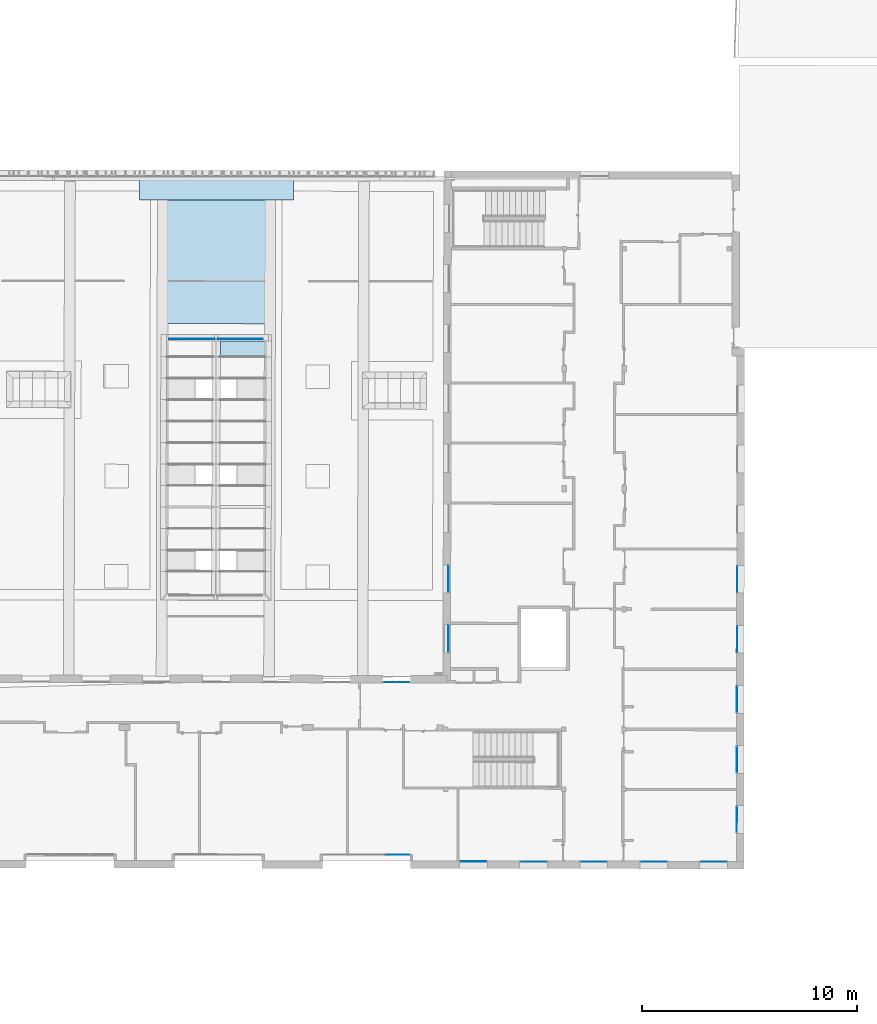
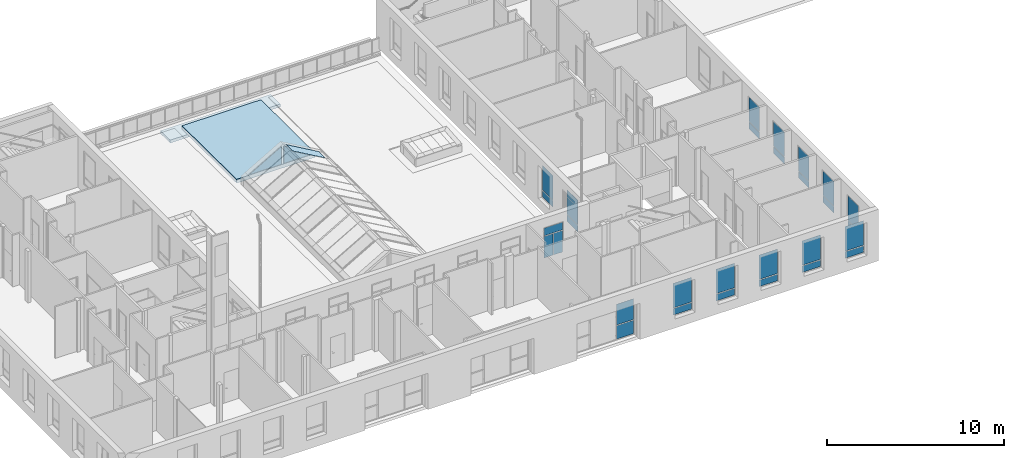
# One storey, part 37 of 101: 32 plates, 2 slabs, 17 elements without a shape of their own.
"""IFC2X3 building model written with IfcOpenShell, lengths in metres."""

from ifc_helpers import new_model, entity, si_unit, converted_unit, derived_unit, direction, frame, frame_2d, origin, place, context, subcontext, project, spatial, polyline, rectangle, outline, extrude, clip, halfspace, source, transform, mapped, material, layer, layer_set, layer_usage, type_object, type_shapes, element, aggregate, save


model = new_model("IFC2X3")

# Units and contexts
model_context = context("Model", 3, precision=1e-05, world=origin(), true_north=direction((6.123233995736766e-17, 1.0)))
body_context = subcontext(model_context, "Body", "Model", "MODEL_VIEW")
ifc_project = project(units=[si_unit("LENGTHUNIT", "METRE"), si_unit("AREAUNIT", "SQUARE_METRE"), converted_unit("PLANEANGLEUNIT", "DEGREE", entity("IfcPlaneAngleMeasure", 0.017453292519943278), si_unit("PLANEANGLEUNIT", "RADIAN"), dimensions=[0, 0, 0, 0, 0, 0, 0]), derived_unit("THERMALTRANSMITTANCEUNIT", [(si_unit("MASSUNIT", "GRAM", prefix="KILO"), 1), (si_unit("THERMODYNAMICTEMPERATUREUNIT", "KELVIN"), -1), (si_unit("TIMEUNIT", "SECOND"), -3)])], contexts=[model_context])

# Site, building, storey
site_placement = place(None, frame((1253.6752467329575, 2072.143113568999, 91.49999999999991), z_axis=(0.0, 0.0, 1.0), x_axis=(0.7237211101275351, 0.6900925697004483, 0.0)))
site = spatial("IfcSite", under=ifc_project, at=site_placement, Name="Surface", CompositionType="ELEMENT")
building_placement = place(site_placement, origin())
building = spatial("IfcBuilding", under=site, at=building_placement, CompositionType="ELEMENT")
storey_placement = place(building_placement, origin())
storey = spatial("IfcBuildingStorey", under=building, at=storey_placement, Name="0- Rdc", CompositionType="ELEMENT", Elevation=-5.764692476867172e-13)

# Slab
ifc_material_1 = material(Name="OMD_Béton blanc")
ifc_layer_1 = layer(ifc_material_1, 0.2)
ifc_layer_set_1 = layer_set([ifc_layer_1], Name="Sol:Dalle 20")
ifc_layer_usage = layer_usage(ifc_layer_set_1, "AXIS3", "POSITIVE", 0.0)
slab_type = type_object("IfcSlabType", Name="Sol:Dalle 20", PredefinedType="FLOOR", material=ifc_layer_set_1)
slab_1_placement = place(storey_placement, origin())
element("IfcSlab", 1, at=slab_1_placement, inside=storey, type_object=slab_type, material=ifc_layer_usage, Name="Sol:Dalle 20", ObjectType="Sol:Dalle 20", PredefinedType="FLOOR", context=body_context, shape_type="SweptSolid", body=[
    clip(clip(extrude(outline(polyline([(-3.5813538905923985, -0.5487258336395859), (3.5804022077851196, -0.5487258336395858), (3.5828156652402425, 0.5509983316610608), (-3.581863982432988, 0.5464533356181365), (-3.5813538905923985, -0.5487258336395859)])), frame((183.40344794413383, 10.195245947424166, -0.7484157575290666), z_axis=(-0.006155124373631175, -0.006429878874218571, -0.9999603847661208), x_axis=(0.7223721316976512, -0.6915045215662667, 0.0)), (0.0, -0.008901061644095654, 0.9999603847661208), 0.20001584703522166), halfspace(frame((183.85668799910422, 10.520959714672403, -0.9533079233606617), z_axis=(-0.00615512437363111, -0.006429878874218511, -0.9999603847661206), x_axis=(-0.6914771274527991, -0.722343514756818, 0.008901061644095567)), False)), halfspace(frame((183.85668799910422, 10.520959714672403, -0.7533), z_axis=(0.00615512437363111, 0.006429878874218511, 0.9999603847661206), x_axis=(0.6914771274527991, 0.722343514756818, -0.008901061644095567)), False)),
])

# Curtain wall, plate
curtain_wall_type_1 = type_object("IfcCurtainWallType", Name="Mur-rideau:Menuiserie Ext 1F+1OB VERTIC", PredefinedType="NOTDEFINED")
curtain_wall_1_placement = place(storey_placement, origin())
curtain_wall_1 = element("IfcCurtainWall", 2, at=curtain_wall_1_placement, inside=storey, type_object=curtain_wall_type_1, Name="Mur-rideau:Menuiserie Ext 1F+1OB VERTIC", ObjectType="Mur-rideau:Menuiserie Ext 1F+1OB VERTIC")
ifc_material_2 = material(Name="Verre")
ifc_layer_2 = layer(ifc_material_2, 0.01)
ifc_layer_set_2 = layer_set([ifc_layer_2], Name="Panneau système:Vitré")
plate_type_1 = type_object("IfcPlateType", Name="Panneau système:Vitré", PredefinedType="CURTAIN_PANEL", material=ifc_layer_set_2)
shared_shape_1 = source(origin(), body_context, "Body", "SweptSolid", [
    extrude(rectangle(XDim=0.01, YDim=1.199695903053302, at=frame_2d((0.0, -4.163336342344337e-15), x_axis=(1.0, 0.0))), frame((0.0, 0.0, 0.0), z_axis=(0.0, 0.0, 1.0), x_axis=(0.0, 1.0, 0.0)), (0.0, 0.0, 1.0), 0.44499999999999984),
])
type_shapes(plate_type_1, [shared_shape_1])
plate_1_placement = place(curtain_wall_1_placement, frame((178.66827929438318, -10.447687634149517, 0.6699999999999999), z_axis=(0.0, 0.0, 1.0), x_axis=(0.6913353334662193, 0.7225340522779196, 0.0)))
plate_1 = element("IfcPlate", 3, at=plate_1_placement, type_object=plate_type_1, material=ifc_material_2, Name="Panneau système:Vitré", ObjectType="Panneau système:Vitré", context=body_context, shape_type="MappedRepresentation", body=[
    mapped(shared_shape_1, transform((0.0, 0.0, 0.0), scale=1.0)),
])

curtain_wall_2_placement = place(storey_placement, origin())
curtain_wall_2 = element("IfcCurtainWall", 4, at=curtain_wall_2_placement, inside=storey, type_object=curtain_wall_type_1, Name="Mur-rideau:Menuiserie Ext 1F+1OB VERTIC", ObjectType="Mur-rideau:Menuiserie Ext 1F+1OB VERTIC")
plate_2_placement = place(curtain_wall_2_placement, frame((188.39294650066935, -19.74346588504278, 0.6699999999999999), z_axis=(0.0, 0.0, 1.0), x_axis=(0.6909838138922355, 0.7228702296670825, 0.0)))
plate_2 = element("IfcPlate", 5, at=plate_2_placement, type_object=plate_type_1, material=ifc_material_2, Name="Panneau système:Vitré", ObjectType="Panneau système:Vitré", context=body_context, shape_type="MappedRepresentation", body=[
    mapped(shared_shape_1, transform((0.0, 0.0, 0.0), scale=1.0)),
])

curtain_wall_3_placement = place(storey_placement, origin())
curtain_wall_3 = element("IfcCurtainWall", 6, at=curtain_wall_3_placement, inside=storey, type_object=curtain_wall_type_1, Name="Mur-rideau:Menuiserie Ext 1F+1OB VERTIC", ObjectType="Mur-rideau:Menuiserie Ext 1F+1OB VERTIC")
plate_3_placement = place(curtain_wall_3_placement, frame((186.45819182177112, -21.767502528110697, 0.6699999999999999), z_axis=(0.0, 0.0, 1.0), x_axis=(0.6909838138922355, 0.7228702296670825, 0.0)))
plate_3 = element("IfcPlate", 7, at=plate_3_placement, type_object=plate_type_1, material=ifc_material_2, Name="Panneau système:Vitré", ObjectType="Panneau système:Vitré", context=body_context, shape_type="MappedRepresentation", body=[
    mapped(shared_shape_1, transform((0.0, 0.0, 0.0), scale=1.0)),
])

curtain_wall_4_placement = place(storey_placement, origin())
curtain_wall_4 = element("IfcCurtainWall", 8, at=curtain_wall_4_placement, inside=storey, type_object=curtain_wall_type_1, Name="Mur-rideau:Menuiserie Ext 1F+1OB VERTIC", ObjectType="Mur-rideau:Menuiserie Ext 1F+1OB VERTIC")
plate_4_placement = place(curtain_wall_4_placement, frame((184.52343714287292, -23.79153917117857, 0.6699999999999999), z_axis=(0.0, 0.0, 1.0), x_axis=(0.6909838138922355, 0.7228702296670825, 0.0)))
plate_4 = element("IfcPlate", 9, at=plate_4_placement, type_object=plate_type_1, material=ifc_material_2, Name="Panneau système:Vitré", ObjectType="Panneau système:Vitré", context=body_context, shape_type="MappedRepresentation", body=[
    mapped(shared_shape_1, transform((0.0, 0.0, 0.0), scale=1.0)),
])

curtain_wall_5_placement = place(storey_placement, origin())
curtain_wall_5 = element("IfcCurtainWall", 10, at=curtain_wall_5_placement, inside=storey, type_object=curtain_wall_type_1, Name="Mur-rideau:Menuiserie Ext 1F+1OB VERTIC", ObjectType="Mur-rideau:Menuiserie Ext 1F+1OB VERTIC")
plate_5_placement = place(curtain_wall_5_placement, frame((182.5886824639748, -25.815575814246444, 0.6699999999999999), z_axis=(0.0, 0.0, 1.0), x_axis=(0.6909838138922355, 0.7228702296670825, 0.0)))
plate_5 = element("IfcPlate", 11, at=plate_5_placement, type_object=plate_type_1, material=ifc_material_2, Name="Panneau système:Vitré", ObjectType="Panneau système:Vitré", context=body_context, shape_type="MappedRepresentation", body=[
    mapped(shared_shape_1, transform((0.0, 0.0, 0.0), scale=1.0)),
])

curtain_wall_6_placement = place(storey_placement, origin())
curtain_wall_6 = element("IfcCurtainWall", 12, at=curtain_wall_6_placement, inside=storey, type_object=curtain_wall_type_1, Name="Mur-rideau:Menuiserie Ext 1F+1OB VERTIC", ObjectType="Mur-rideau:Menuiserie Ext 1F+1OB VERTIC")
plate_6_placement = place(curtain_wall_6_placement, frame((180.6539277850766, -27.839612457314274, 0.6699999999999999), z_axis=(0.0, 0.0, 1.0), x_axis=(0.6909838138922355, 0.7228702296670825, 0.0)))
plate_6 = element("IfcPlate", 13, at=plate_6_placement, type_object=plate_type_1, material=ifc_material_2, Name="Panneau système:Vitré", ObjectType="Panneau système:Vitré", context=body_context, shape_type="MappedRepresentation", body=[
    mapped(shared_shape_1, transform((0.0, 0.0, 0.0), scale=1.0)),
])

curtain_wall_7_placement = place(storey_placement, origin())
curtain_wall_7 = element("IfcCurtainWall", 14, at=curtain_wall_7_placement, inside=storey, type_object=curtain_wall_type_1, Name="Mur-rideau:Menuiserie Ext 1F+1OB VERTIC", ObjectType="Mur-rideau:Menuiserie Ext 1F+1OB VERTIC")
plate_7_placement = place(curtain_wall_7_placement, frame((178.50916414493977, -28.521830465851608, 0.6699999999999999), z_axis=(0.0, 0.0, 1.0), x_axis=(-0.7228702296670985, 0.6909838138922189, 0.0)))
plate_7 = element("IfcPlate", 15, at=plate_7_placement, type_object=plate_type_1, material=ifc_material_2, Name="Panneau système:Vitré", ObjectType="Panneau système:Vitré", context=body_context, shape_type="MappedRepresentation", body=[
    mapped(shared_shape_1, transform((0.0, 0.0, 0.0), scale=1.0)),
])

curtain_wall_8_placement = place(storey_placement, origin())
curtain_wall_8 = element("IfcCurtainWall", 16, at=curtain_wall_8_placement, inside=storey, type_object=curtain_wall_type_1, Name="Mur-rideau:Menuiserie Ext 1F+1OB VERTIC", ObjectType="Mur-rideau:Menuiserie Ext 1F+1OB VERTIC")
plate_8_placement = place(curtain_wall_8_placement, frame((176.49128774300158, -26.592964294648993, 0.6699999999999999), z_axis=(0.0, 0.0, 1.0), x_axis=(-0.7228702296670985, 0.6909838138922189, 0.0)))
plate_8 = element("IfcPlate", 17, at=plate_8_placement, type_object=plate_type_1, material=ifc_material_2, Name="Panneau système:Vitré", ObjectType="Panneau système:Vitré", context=body_context, shape_type="MappedRepresentation", body=[
    mapped(shared_shape_1, transform((0.0, 0.0, 0.0), scale=1.0)),
])

curtain_wall_9_placement = place(storey_placement, origin())
curtain_wall_9 = element("IfcCurtainWall", 18, at=curtain_wall_9_placement, inside=storey, type_object=curtain_wall_type_1, Name="Mur-rideau:Menuiserie Ext 1F+1OB VERTIC", ObjectType="Mur-rideau:Menuiserie Ext 1F+1OB VERTIC")
plate_9_placement = place(curtain_wall_9_placement, frame((174.46725109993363, -24.65820961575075, 0.6699999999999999), z_axis=(0.0, 0.0, 1.0), x_axis=(-0.7228702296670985, 0.6909838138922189, 0.0)))
plate_9 = element("IfcPlate", 19, at=plate_9_placement, type_object=plate_type_1, material=ifc_material_2, Name="Panneau système:Vitré", ObjectType="Panneau système:Vitré", context=body_context, shape_type="MappedRepresentation", body=[
    mapped(shared_shape_1, transform((0.0, 0.0, 0.0), scale=1.0)),
])

curtain_wall_10_placement = place(storey_placement, origin())
curtain_wall_10 = element("IfcCurtainWall", 20, at=curtain_wall_10_placement, inside=storey, type_object=curtain_wall_type_1, Name="Mur-rideau:Menuiserie Ext 1F+1OB VERTIC", ObjectType="Mur-rideau:Menuiserie Ext 1F+1OB VERTIC")
plate_10_placement = place(curtain_wall_10_placement, frame((172.4432144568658, -22.72345493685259, 0.6699999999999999), z_axis=(0.0, 0.0, 1.0), x_axis=(-0.7228702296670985, 0.6909838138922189, 0.0)))
plate_10 = element("IfcPlate", 21, at=plate_10_placement, type_object=plate_type_1, material=ifc_material_2, Name="Panneau système:Vitré", ObjectType="Panneau système:Vitré", context=body_context, shape_type="MappedRepresentation", body=[
    mapped(shared_shape_1, transform((0.0, 0.0, 0.0), scale=1.0)),
])

curtain_wall_11_placement = place(storey_placement, origin())
curtain_wall_11 = element("IfcCurtainWall", 22, at=curtain_wall_11_placement, inside=storey, type_object=curtain_wall_type_1, Name="Mur-rideau:Menuiserie Ext 1F+1OB VERTIC", ObjectType="Mur-rideau:Menuiserie Ext 1F+1OB VERTIC")
plate_11_placement = place(curtain_wall_11_placement, frame((170.4191778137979, -20.788700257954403, 0.6699999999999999), z_axis=(0.0, 0.0, 1.0), x_axis=(-0.7228702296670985, 0.6909838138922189, 0.0)))
plate_11 = element("IfcPlate", 23, at=plate_11_placement, type_object=plate_type_1, material=ifc_material_2, Name="Panneau système:Vitré", ObjectType="Panneau système:Vitré", context=body_context, shape_type="MappedRepresentation", body=[
    mapped(shared_shape_1, transform((0.0, 0.0, 0.0), scale=1.0)),
])

# Plate
plate_type_2 = type_object("IfcPlateType", Name="Panneau système:Vitré", PredefinedType="CURTAIN_PANEL", material=ifc_layer_set_2)
shared_shape_2 = source(origin(), body_context, "Body", "SweptSolid", [
    extrude(rectangle(XDim=0.01, YDim=1.199695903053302, at=frame_2d((0.0, -4.163336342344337e-15), x_axis=(1.0, 0.0))), frame((0.0, 0.0, 0.0), z_axis=(0.0, 0.0, 1.0), x_axis=(0.0, 1.0, 0.0)), (0.0, 0.0, 1.0), 1.6849999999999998),
])
type_shapes(plate_type_2, [shared_shape_2])
plate_12_placement = place(curtain_wall_1_placement, frame((178.66827929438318, -10.447687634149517, 1.1649999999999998), z_axis=(0.0, 0.0, 1.0), x_axis=(0.6913353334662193, 0.7225340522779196, 0.0)))
plate_12 = element("IfcPlate", 24, at=plate_12_placement, type_object=plate_type_2, material=ifc_material_2, Name="Panneau système:Vitré", ObjectType="Panneau système:Vitré", context=body_context, shape_type="MappedRepresentation", body=[
    mapped(shared_shape_2, transform((0.0, 0.0, 0.0), scale=1.0)),
])

aggregate(curtain_wall_1, [plate_1, plate_12])

plate_13_placement = place(curtain_wall_2_placement, frame((188.39294650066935, -19.74346588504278, 1.1649999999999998), z_axis=(0.0, 0.0, 1.0), x_axis=(0.6909838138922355, 0.7228702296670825, 0.0)))
plate_13 = element("IfcPlate", 25, at=plate_13_placement, type_object=plate_type_2, material=ifc_material_2, Name="Panneau système:Vitré", ObjectType="Panneau système:Vitré", context=body_context, shape_type="MappedRepresentation", body=[
    mapped(shared_shape_2, transform((0.0, 0.0, 0.0), scale=1.0)),
])

aggregate(curtain_wall_2, [plate_2, plate_13])

plate_14_placement = place(curtain_wall_3_placement, frame((186.45819182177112, -21.767502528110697, 1.1649999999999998), z_axis=(0.0, 0.0, 1.0), x_axis=(0.6909838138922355, 0.7228702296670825, 0.0)))
plate_14 = element("IfcPlate", 26, at=plate_14_placement, type_object=plate_type_2, material=ifc_material_2, Name="Panneau système:Vitré", ObjectType="Panneau système:Vitré", context=body_context, shape_type="MappedRepresentation", body=[
    mapped(shared_shape_2, transform((0.0, 0.0, 0.0), scale=1.0)),
])

aggregate(curtain_wall_3, [plate_3, plate_14])

plate_15_placement = place(curtain_wall_4_placement, frame((184.52343714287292, -23.79153917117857, 1.1649999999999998), z_axis=(0.0, 0.0, 1.0), x_axis=(0.6909838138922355, 0.7228702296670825, 0.0)))
plate_15 = element("IfcPlate", 27, at=plate_15_placement, type_object=plate_type_2, material=ifc_material_2, Name="Panneau système:Vitré", ObjectType="Panneau système:Vitré", context=body_context, shape_type="MappedRepresentation", body=[
    mapped(shared_shape_2, transform((0.0, 0.0, 0.0), scale=1.0)),
])

aggregate(curtain_wall_4, [plate_4, plate_15])

plate_16_placement = place(curtain_wall_5_placement, frame((182.5886824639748, -25.815575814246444, 1.1649999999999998), z_axis=(0.0, 0.0, 1.0), x_axis=(0.6909838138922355, 0.7228702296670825, 0.0)))
plate_16 = element("IfcPlate", 28, at=plate_16_placement, type_object=plate_type_2, material=ifc_material_2, Name="Panneau système:Vitré", ObjectType="Panneau système:Vitré", context=body_context, shape_type="MappedRepresentation", body=[
    mapped(shared_shape_2, transform((0.0, 0.0, 0.0), scale=1.0)),
])

aggregate(curtain_wall_5, [plate_5, plate_16])

plate_17_placement = place(curtain_wall_6_placement, frame((180.6539277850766, -27.839612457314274, 1.1649999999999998), z_axis=(0.0, 0.0, 1.0), x_axis=(0.6909838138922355, 0.7228702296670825, 0.0)))
plate_17 = element("IfcPlate", 29, at=plate_17_placement, type_object=plate_type_2, material=ifc_material_2, Name="Panneau système:Vitré", ObjectType="Panneau système:Vitré", context=body_context, shape_type="MappedRepresentation", body=[
    mapped(shared_shape_2, transform((0.0, 0.0, 0.0), scale=1.0)),
])

aggregate(curtain_wall_6, [plate_6, plate_17])

plate_18_placement = place(curtain_wall_7_placement, frame((178.50916414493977, -28.521830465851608, 1.1649999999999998), z_axis=(0.0, 0.0, 1.0), x_axis=(-0.7228702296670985, 0.6909838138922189, 0.0)))
plate_18 = element("IfcPlate", 30, at=plate_18_placement, type_object=plate_type_2, material=ifc_material_2, Name="Panneau système:Vitré", ObjectType="Panneau système:Vitré", context=body_context, shape_type="MappedRepresentation", body=[
    mapped(shared_shape_2, transform((0.0, 0.0, 0.0), scale=1.0)),
])

aggregate(curtain_wall_7, [plate_7, plate_18])

plate_19_placement = place(curtain_wall_8_placement, frame((176.49128774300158, -26.592964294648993, 1.1649999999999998), z_axis=(0.0, 0.0, 1.0), x_axis=(-0.7228702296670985, 0.6909838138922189, 0.0)))
plate_19 = element("IfcPlate", 31, at=plate_19_placement, type_object=plate_type_2, material=ifc_material_2, Name="Panneau système:Vitré", ObjectType="Panneau système:Vitré", context=body_context, shape_type="MappedRepresentation", body=[
    mapped(shared_shape_2, transform((0.0, 0.0, 0.0), scale=1.0)),
])

aggregate(curtain_wall_8, [plate_8, plate_19])

plate_20_placement = place(curtain_wall_9_placement, frame((174.46725109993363, -24.65820961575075, 1.1649999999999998), z_axis=(0.0, 0.0, 1.0), x_axis=(-0.7228702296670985, 0.6909838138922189, 0.0)))
plate_20 = element("IfcPlate", 32, at=plate_20_placement, type_object=plate_type_2, material=ifc_material_2, Name="Panneau système:Vitré", ObjectType="Panneau système:Vitré", context=body_context, shape_type="MappedRepresentation", body=[
    mapped(shared_shape_2, transform((0.0, 0.0, 0.0), scale=1.0)),
])

aggregate(curtain_wall_9, [plate_9, plate_20])

plate_21_placement = place(curtain_wall_10_placement, frame((172.4432144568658, -22.72345493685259, 1.1649999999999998), z_axis=(0.0, 0.0, 1.0), x_axis=(-0.7228702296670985, 0.6909838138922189, 0.0)))
plate_21 = element("IfcPlate", 33, at=plate_21_placement, type_object=plate_type_2, material=ifc_material_2, Name="Panneau système:Vitré", ObjectType="Panneau système:Vitré", context=body_context, shape_type="MappedRepresentation", body=[
    mapped(shared_shape_2, transform((0.0, 0.0, 0.0), scale=1.0)),
])

aggregate(curtain_wall_10, [plate_10, plate_21])

plate_22_placement = place(curtain_wall_11_placement, frame((170.4191778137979, -20.788700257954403, 1.1649999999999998), z_axis=(0.0, 0.0, 1.0), x_axis=(-0.7228702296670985, 0.6909838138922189, 0.0)))
plate_22 = element("IfcPlate", 34, at=plate_22_placement, type_object=plate_type_2, material=ifc_material_2, Name="Panneau système:Vitré", ObjectType="Panneau système:Vitré", context=body_context, shape_type="MappedRepresentation", body=[
    mapped(shared_shape_2, transform((0.0, 0.0, 0.0), scale=1.0)),
])

aggregate(curtain_wall_11, [plate_11, plate_22])

# Curtain wall, plates
curtain_wall_12_placement = place(storey_placement, origin())
curtain_wall_12 = element("IfcCurtainWall", 35, at=curtain_wall_12_placement, inside=storey, type_object=curtain_wall_type_1, Name="Mur-rideau:Menuiserie Ext 1F+1OB VERTIC", ObjectType="Mur-rideau:Menuiserie Ext 1F+1OB VERTIC")
plate_type_3 = type_object("IfcPlateType", Name="Panneau système:Vitré", PredefinedType="CURTAIN_PANEL", material=ifc_layer_set_2)
shared_shape_3 = source(origin(), body_context, "Body", "SweptSolid", [
    extrude(rectangle(XDim=0.01, YDim=1.2296419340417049, at=frame_2d((0.0, 6.050715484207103e-15), x_axis=(1.0, 0.0))), frame((0.0, 0.0, 0.0), z_axis=(0.0, 0.0, 1.0), x_axis=(0.0, 1.0, 0.0)), (0.0, 0.0, 1.0), 0.44499999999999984),
])
type_shapes(plate_type_3, [shared_shape_3])
plate_23_placement = place(curtain_wall_12_placement, frame((176.7428917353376, -12.459964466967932, 0.6699999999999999), z_axis=(0.0, 0.0, 1.0), x_axis=(0.6913353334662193, 0.7225340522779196, 0.0)))
plate_23 = element("IfcPlate", 36, at=plate_23_placement, type_object=plate_type_3, material=ifc_material_2, Name="Panneau système:Vitré", ObjectType="Panneau système:Vitré", context=body_context, shape_type="MappedRepresentation", body=[
    mapped(shared_shape_3, transform((0.0, 0.0, 0.0), scale=1.0)),
])
plate_type_4 = type_object("IfcPlateType", Name="Panneau système:Vitré", PredefinedType="CURTAIN_PANEL", material=ifc_layer_set_2)
shared_shape_4 = source(origin(), body_context, "Body", "SweptSolid", [
    extrude(rectangle(XDim=0.01, YDim=1.2296419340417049, at=frame_2d((0.0, 6.050715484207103e-15), x_axis=(1.0, 0.0))), frame((0.0, 0.0, 0.0), z_axis=(0.0, 0.0, 1.0), x_axis=(0.0, 1.0, 0.0)), (0.0, 0.0, 1.0), 1.6849999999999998),
])
type_shapes(plate_type_4, [shared_shape_4])
plate_24_placement = place(curtain_wall_12_placement, frame((176.7428917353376, -12.459964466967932, 1.1649999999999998), z_axis=(0.0, 0.0, 1.0), x_axis=(0.6913353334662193, 0.7225340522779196, 0.0)))
plate_24 = element("IfcPlate", 37, at=plate_24_placement, type_object=plate_type_4, material=ifc_material_2, Name="Panneau système:Vitré", ObjectType="Panneau système:Vitré", context=body_context, shape_type="MappedRepresentation", body=[
    mapped(shared_shape_4, transform((0.0, 0.0, 0.0), scale=1.0)),
])
aggregate(curtain_wall_12, [plate_23, plate_24])

curtain_wall_type_2 = type_object("IfcCurtainWallType", Name="Mur-rideau:Menuiserie Ext 2OF+1F VERTIC", PredefinedType="NOTDEFINED")
curtain_wall_13_placement = place(storey_placement, origin())
curtain_wall_13 = element("IfcCurtainWall", 38, at=curtain_wall_13_placement, inside=storey, type_object=curtain_wall_type_2, Name="Mur-rideau:Menuiserie Ext 2OF+1F VERTIC", ObjectType="Mur-rideau:Menuiserie Ext 2OF+1F VERTIC")
plate_type_5 = type_object("IfcPlateType", Name="Panneau système:Vitré", PredefinedType="CURTAIN_PANEL", material=ifc_layer_set_2)
shared_shape_5 = source(origin(), body_context, "Body", "SweptSolid", [
    extrude(rectangle(XDim=0.01, YDim=0.5748479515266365, at=frame_2d((0.0, 1.4988010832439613e-15), x_axis=(1.0, 0.0))), frame((0.0, 0.0, 0.0), z_axis=(0.0, 0.0, 1.0), x_axis=(0.0, 1.0, 0.0)), (0.0, 0.0, 1.0), 1.4833333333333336),
])
type_shapes(plate_type_5, [shared_shape_5])
plate_25_placement = place(curtain_wall_13_placement, frame((173.8124018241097, -12.481072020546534, 0.7916666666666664), z_axis=(0.0, 0.0, 1.0), x_axis=(-0.7228702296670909, 0.6909838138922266, 0.0)))
plate_25 = element("IfcPlate", 39, at=plate_25_placement, type_object=plate_type_5, material=ifc_material_2, Name="Panneau système:Vitré", ObjectType="Panneau système:Vitré", context=body_context, shape_type="MappedRepresentation", body=[
    mapped(shared_shape_5, transform((0.0, 0.0, 0.0), scale=1.0)),
])
plate_26_placement = place(curtain_wall_13_placement, frame((173.3607178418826, -12.049312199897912, 0.7916666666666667), z_axis=(0.0, 0.0, 1.0), x_axis=(-0.7228702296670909, 0.6909838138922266, 0.0)))
plate_26 = element("IfcPlate", 40, at=plate_26_placement, type_object=plate_type_5, material=ifc_material_2, Name="Panneau système:Vitré", ObjectType="Panneau système:Vitré", context=body_context, shape_type="MappedRepresentation", body=[
    mapped(shared_shape_5, transform((0.0, 0.0, 0.0), scale=1.0)),
])
plate_type_6 = type_object("IfcPlateType", Name="Panneau système:Vitré", PredefinedType="CURTAIN_PANEL", material=ifc_layer_set_2)
shared_shape_6 = source(origin(), body_context, "Body", "SweptSolid", [
    extrude(rectangle(XDim=0.5249999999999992, YDim=1.1996959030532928, at=frame_2d((-2.7755575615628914e-17, 5.551115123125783e-17), x_axis=(1.0, 0.0))), frame((0.0, -0.005000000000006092, 0.2624999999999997), z_axis=(0.0, 1.0, 0.0), x_axis=(0.0, 0.0, 1.0)), (0.0, 0.0, 1.0), 0.01),
])
type_shapes(plate_type_6, [shared_shape_6])
plate_27_placement = place(curtain_wall_13_placement, frame((173.58655983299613, -12.265192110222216, 2.325), z_axis=(0.0, 0.0, 1.0), x_axis=(-0.7228702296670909, 0.6909838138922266, 0.0)))
plate_27 = element("IfcPlate", 41, at=plate_27_placement, type_object=plate_type_6, material=ifc_material_2, Name="Panneau système:Vitré", ObjectType="Panneau système:Vitré", context=body_context, shape_type="MappedRepresentation", body=[
    mapped(shared_shape_6, transform((0.0, 0.0, 0.0), scale=1.0)),
])
aggregate(curtain_wall_13, [plate_25, plate_26, plate_27])

curtain_wall_14_placement = place(storey_placement, origin())
curtain_wall_14 = element("IfcCurtainWall", 42, at=curtain_wall_14_placement, inside=storey, type_object=curtain_wall_type_1, Name="Mur-rideau:Menuiserie Ext 1F+1OB VERTIC", ObjectType="Mur-rideau:Menuiserie Ext 1F+1OB VERTIC")
plate_type_7 = type_object("IfcPlateType", Name="Panneau système:Vitré", PredefinedType="CURTAIN_PANEL", material=ifc_layer_set_2)
shared_shape_7 = source(origin(), body_context, "Body", "SweptSolid", [
    extrude(rectangle(XDim=0.01, YDim=1.099999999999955, at=frame_2d((0.0, 1.7208456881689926e-15), x_axis=(1.0, 0.0))), frame((0.0, 0.0, 0.0), z_axis=(0.0, 0.0, 1.0), x_axis=(0.0, 1.0, 0.0)), (0.0, 0.0, 1.0), 0.9249999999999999),
])
type_shapes(plate_type_7, [shared_shape_7])
plate_28_placement = place(curtain_wall_14_placement, frame((168.0670835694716, -18.111512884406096, 0.05), z_axis=(0.0, 0.0, 1.0), x_axis=(-0.7228702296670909, 0.6909838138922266, 0.0)))
plate_28 = element("IfcPlate", 43, at=plate_28_placement, type_object=plate_type_7, material=ifc_material_2, Name="Panneau système:Vitré", ObjectType="Panneau système:Vitré", context=body_context, shape_type="MappedRepresentation", body=[
    mapped(shared_shape_7, transform((0.0, 0.0, 0.0), scale=1.0)),
])
plate_type_8 = type_object("IfcPlateType", Name="Panneau système:Vitré", PredefinedType="CURTAIN_PANEL", material=ifc_layer_set_2)
shared_shape_8 = source(origin(), body_context, "Body", "SweptSolid", [
    extrude(rectangle(XDim=0.01, YDim=1.0999999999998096, at=frame_2d((0.0, 2.886579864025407e-15), x_axis=(1.0, 0.0))), frame((0.0, 0.0, 0.0), z_axis=(0.0, 0.0, 1.0), x_axis=(0.0, 1.0, 0.0)), (0.0, 0.0, 1.0), 1.4249999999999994),
])
type_shapes(plate_type_8, [shared_shape_8])
plate_29_placement = place(curtain_wall_14_placement, frame((168.0670835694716, -18.111512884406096, 1.025), z_axis=(0.0, 0.0, 1.0), x_axis=(-0.7228702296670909, 0.6909838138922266, 0.0)))
plate_29 = element("IfcPlate", 44, at=plate_29_placement, type_object=plate_type_8, material=ifc_material_2, Name="Panneau système:Vitré", ObjectType="Panneau système:Vitré", context=body_context, shape_type="MappedRepresentation", body=[
    mapped(shared_shape_8, transform((0.0, 0.0, 0.0), scale=1.0)),
])
aggregate(curtain_wall_14, [plate_28, plate_29])

# Roof, slab
ifc_material_3 = material(Name="OMD _toiture végétalisée")
ifc_layer_3 = layer(ifc_material_3, 0.05)
ifc_material_4 = material(Name="OMD_couche drainante")
ifc_layer_4 = layer(ifc_material_4, 0.05)
ifc_material_5 = material(Name="Maçonnerie - Isolant")
ifc_layer_5 = layer(ifc_material_5, 0.16)
ifc_layer_set_3 = layer_set([ifc_layer_3, ifc_layer_4, ifc_layer_5], Name="Toit de base:Toit végétalisée")
roof_1_placement = place(storey_placement, frame((177.17788880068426, 3.864121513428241, -0.6043985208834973)))
roof_1 = element("IfcRoof", 45, at=roof_1_placement, inside=storey, material=ifc_layer_set_3, Name="Toit de base:Toit végétalisée", ObjectType="Toit de base:Toit végétalisée", ShapeType="NOTDEFINED")
type_product = type_object("IfcTypeProduct", Name="Toit de base:Toit végétalisée")
slab_2_placement = place(roof_1_placement, origin())
slab_2 = element("IfcSlab", 46, at=slab_2_placement, type_object=type_product, material=ifc_layer_set_3, Name="Toit de base:Toit végétalisée", ObjectType="Toit de base:Toit végétalisée", PredefinedType="ROOF", context=body_context, shape_type="SweptSolid", body=[
    extrude(outline(polyline([(-0.28334841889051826, -4.0040338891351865), (3.99330238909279, 0.4578696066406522), (0.2772163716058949, 4.009895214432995), (-3.9896859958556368, -0.45408617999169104), (-0.28334841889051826, -4.0040338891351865)])), frame((3.9896105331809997, 4.003939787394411, 0.027506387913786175), z_axis=(0.006150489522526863, 0.006434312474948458, 0.9999603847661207), x_axis=(0.9999810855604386, -3.957491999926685e-05, -0.00615036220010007)), (-0.00615036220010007, -0.006434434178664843, 0.9999603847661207), 0.26001030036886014),
])
aggregate(roof_1, [slab_2])

# Roof, plate
curtain_wall_type_3 = type_object("IfcCurtainWallType", Name="Vitres inclinées:Toit en verre 1 m x 2 m", PredefinedType="NOTDEFINED")
roof_2_placement = place(storey_placement, origin())
roof_2 = element("IfcRoof", 47, at=roof_2_placement, inside=storey, type_object=curtain_wall_type_3, Name="Vitres inclinées:Toit en verre 1 m x 2 m", ObjectType="Vitres inclinées:Toit en verre 1 m x 2 m", ShapeType="NOTDEFINED")
plate_type_9 = type_object("IfcPlateType", Name="Panneau système:Vitré", PredefinedType="CURTAIN_PANEL", material=ifc_layer_set_2)
shared_shape_9 = source(origin(), body_context, "Body", "SweptSolid", [
    extrude(rectangle(XDim=0.01, YDim=0.7227509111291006, at=frame_2d((0.0, -2.581268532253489e-15), x_axis=(1.0, 0.0))), frame((0.0, 0.0, 0.0), z_axis=(0.0, 0.0, 1.0), x_axis=(0.0, 1.0, 0.0)), (0.0, 0.0, 1.0), 2.452048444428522),
])
type_shapes(plate_type_9, [shared_shape_9])
plate_30_placement = place(roof_2_placement, frame((179.9087572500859, 3.1971582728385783, 0.39589942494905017), z_axis=(-0.6260239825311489, 0.5984095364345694, 0.5000000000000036), x_axis=(0.6909838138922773, 0.7228702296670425, 0.0)))
plate_30 = element("IfcPlate", 48, at=plate_30_placement, type_object=plate_type_9, material=ifc_material_2, Name="Panneau système:Vitré", ObjectType="Panneau système:Vitré", context=body_context, shape_type="MappedRepresentation", body=[
    mapped(shared_shape_9, transform((0.0, 0.0, 0.0), scale=1.0)),
])
aggregate(roof_2, [plate_30])

# Curtain wall, plates
curtain_wall_type_4 = type_object("IfcCurtainWallType", Name="Mur-rideau:Menuiserie Ext", PredefinedType="NOTDEFINED")
curtain_wall_15_placement = place(storey_placement, origin())
curtain_wall_15 = element("IfcCurtainWall", 49, at=curtain_wall_15_placement, inside=storey, type_object=curtain_wall_type_4, Name="Mur-rideau:Menuiserie Ext", ObjectType="Mur-rideau:Menuiserie Ext")
plate_type_10 = type_object("IfcPlateType", Name="Panneau système:Vitré", PredefinedType="CURTAIN_PANEL", material=ifc_layer_set_2)
shared_shape_10 = source(origin(), body_context, "Body", "SweptSolid", [
    extrude(outline(polyline([(-1.4101547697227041, -0.3489228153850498), (1.0072534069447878, -0.3489228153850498), (0.4029013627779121, 0.6978456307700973), (-1.4101547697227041, -0.3489228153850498)])), frame((0.34892281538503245, -0.005000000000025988, 0.40290136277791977), z_axis=(0.0, 1.0, 0.0), x_axis=(0.8660254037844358, 0.0, 0.5000000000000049)), (0.0, 0.0, 1.0), 0.01),
])
type_shapes(plate_type_10, [shared_shape_10])
plate_31_placement = place(curtain_wall_15_placement, frame((179.35973299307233, 4.339427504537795, 0.3147207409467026), z_axis=(0.0, 0.0, 1.0), x_axis=(-0.7228702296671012, 0.6909838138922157, 0.0)))
plate_31 = element("IfcPlate", 50, at=plate_31_placement, type_object=plate_type_10, material=ifc_material_2, Name="Panneau système:Vitré", ObjectType="Panneau système:Vitré", context=body_context, shape_type="MappedRepresentation", body=[
    mapped(shared_shape_10, transform((0.0, 0.0, 0.0), scale=1.0)),
])
plate_type_11 = type_object("IfcPlateType", Name="Panneau système:Vitré", PredefinedType="CURTAIN_PANEL", material=ifc_layer_set_2)
shared_shape_11 = source(origin(), body_context, "Body", "SweptSolid", [
    extrude(outline(polyline([(-0.4052610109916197, -0.7019326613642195), (0.8105220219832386, -0.7019326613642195), (-0.40526101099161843, 1.4038653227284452), (-0.4052610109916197, -0.7019326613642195)])), frame((-0.35096633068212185, -0.005000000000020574, 0.4052610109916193), z_axis=(0.0, 1.0, 0.0), x_axis=(0.0, 0.0, 1.0)), (0.0, 0.0, 1.0), 0.01),
])
type_shapes(plate_type_11, [shared_shape_11])
plate_32_placement = place(curtain_wall_15_placement, frame((177.733515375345, 5.893911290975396, 0.3147207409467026), z_axis=(0.0, 0.0, 1.0), x_axis=(-0.7228702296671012, 0.6909838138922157, 0.0)))
plate_32 = element("IfcPlate", 51, at=plate_32_placement, type_object=plate_type_11, material=ifc_material_2, Name="Panneau système:Vitré", ObjectType="Panneau système:Vitré", context=body_context, shape_type="MappedRepresentation", body=[
    mapped(shared_shape_11, transform((0.0, 0.0, 0.0), scale=1.0)),
])
aggregate(curtain_wall_15, [plate_31, plate_32])

save(model, "model.ifc")
